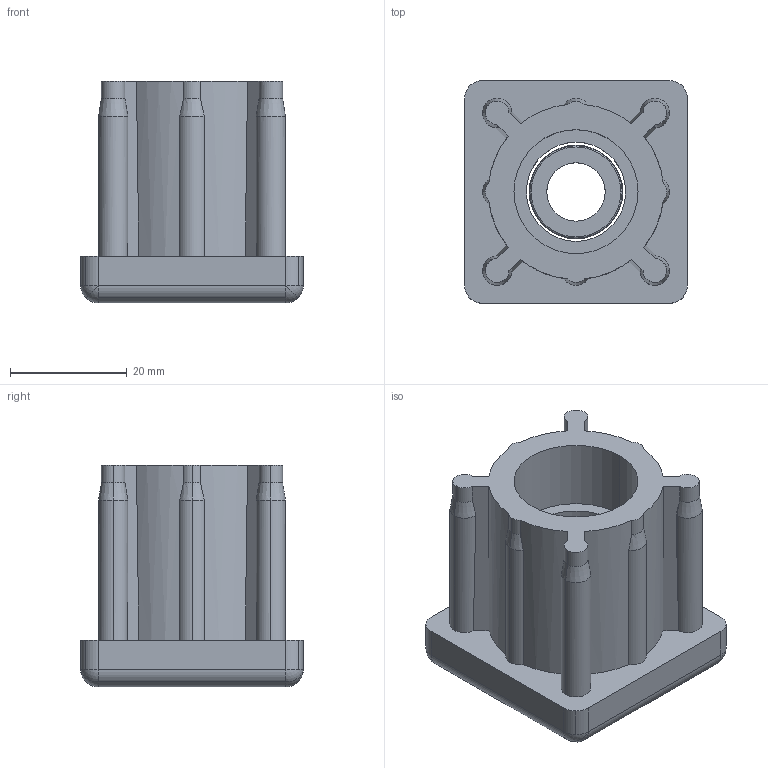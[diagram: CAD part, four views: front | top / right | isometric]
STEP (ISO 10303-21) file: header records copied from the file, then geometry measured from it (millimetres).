
FILE_DESCRIPTION (( 'STEP AP214' ), '1' );
FILE_NAME ('42006840210.STEP', '2020-02-26T10:44:09', ( '' ), ( '' ), 'SwSTEP 2.0', 'SolidWorks 2018', '' );
FILE_SCHEMA (( 'AUTOMOTIVE_DESIGN' ));
Length unit declared in the file: millimetre
Products named in the file (4): 42006840210; Component1.stp; BC_M10.stp; 42006840210.stp
Assembly tree (3 placements, depth 3):
  42006840210
    42006840210.stp
      Component1.stp
      BC_M10.stp
Bounding box: 38.1 x 38.1 x 38 mm (x, y, z)
Volume: 25956.6 mm3; surface area: 11153.1 mm2
Topology: 2 solids, 2 shells, 121 faces, 296 edges, 182 vertices
Faces by surface type: cylinder 68, cone 24, plane 19, sphere 8, torus 2
Entity records: 3770 total; most frequent: CARTESIAN_POINT 714, DIRECTION 680, ORIENTED_EDGE 592, EDGE_CURVE 296, AXIS2_PLACEMENT_3D 288, VERTEX_POINT 182, CIRCLE 160, EDGE_LOOP 128
